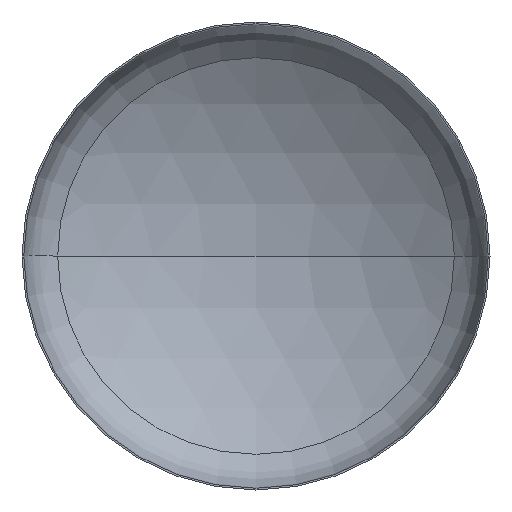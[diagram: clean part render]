
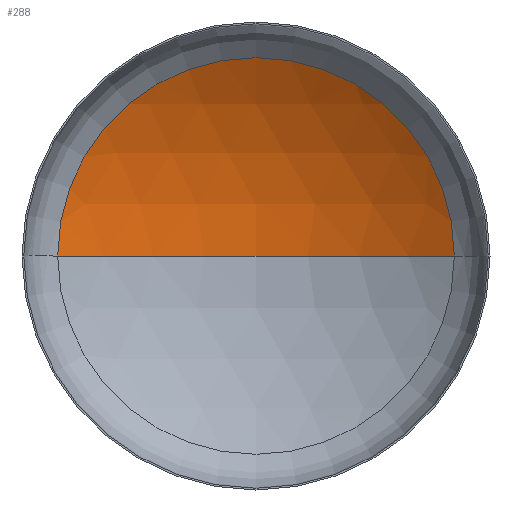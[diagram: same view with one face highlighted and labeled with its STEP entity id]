
A CAD part, front view. The second image highlights one B-rep face of the part: STEP entity #288.
In plain terms, the highlighted spherical face has radius 1920 mm.
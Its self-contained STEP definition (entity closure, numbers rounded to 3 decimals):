
#2 = ORIENTED_EDGE ( 'NONE', *, *, #355, .F. ) ;
#9 = FACE_OUTER_BOUND ( 'NONE', #15, .T. ) ;
#15 = EDGE_LOOP ( 'NONE', ( #2, #83, #31 ) ) ;
#24 = AXIS2_PLACEMENT_3D ( 'NONE', #287, #411, #183 ) ;
#25 = AXIS2_PLACEMENT_3D ( 'NONE', #151, #312, #171 ) ;
#31 = ORIENTED_EDGE ( 'NONE', *, *, #350, .T. ) ;
#32 = VERTEX_POINT ( 'NONE', #363 ) ;
#34 = AXIS2_PLACEMENT_3D ( 'NONE', #167, #169, #179 ) ;
#46 = AXIS2_PLACEMENT_3D ( 'NONE', #222, #272, #262 ) ;
#83 = ORIENTED_EDGE ( 'NONE', *, *, #354, .T. ) ;
#98 = VERTEX_POINT ( 'NONE', #236 ) ;
#151 = CARTESIAN_POINT ( 'NONE',  ( 0., -1284.709, 0. ) ) ;
#159 = CIRCLE ( 'NONE', #24, 1920. ) ;
#167 = CARTESIAN_POINT ( 'NONE',  ( 0., 343.834, 0. ) ) ;
#169 = DIRECTION ( 'NONE',  ( 0., -1., 0. ) ) ;
#171 = DIRECTION ( 'NONE',  ( -1., 0., 0. ) ) ;
#179 = DIRECTION ( 'NONE',  ( 1., 0., 0. ) ) ;
#180 = SPHERICAL_SURFACE ( 'NONE', #46, 1920. ) ;
#183 = DIRECTION ( 'NONE',  ( 1., 0., 0. ) ) ;
#222 = CARTESIAN_POINT ( 'NONE',  ( 0., -1284.709, 0. ) ) ;
#236 = CARTESIAN_POINT ( 'NONE',  ( 0., 635.291, 0. ) ) ;
#262 = DIRECTION ( 'NONE',  ( -1., 0., 0. ) ) ;
#272 = DIRECTION ( 'NONE',  ( 0., 0., -1. ) ) ;
#283 = CARTESIAN_POINT ( 'NONE',  ( 1016.981, 343.834, 0. ) ) ;
#287 = CARTESIAN_POINT ( 'NONE',  ( 0., -1284.709, 0. ) ) ;
#288 = ADVANCED_FACE ( 'NONE', ( #9 ), #180, .F. ) ;
#289 = CIRCLE ( 'NONE', #25, 1920. ) ;
#312 = DIRECTION ( 'NONE',  ( 0., 0., -1. ) ) ;
#337 = VERTEX_POINT ( 'NONE', #283 ) ;
#350 = EDGE_CURVE ( 'NONE', #337, #32, #404, .T. ) ;
#354 = EDGE_CURVE ( 'NONE', #98, #337, #289, .T. ) ;
#355 = EDGE_CURVE ( 'NONE', #98, #32, #159, .T. ) ;
#363 = CARTESIAN_POINT ( 'NONE',  ( -1016.981, 343.834, 0. ) ) ;
#404 = CIRCLE ( 'NONE', #34, 1016.981 ) ;
#411 = DIRECTION ( 'NONE',  ( 0., 0., 1. ) ) ;
